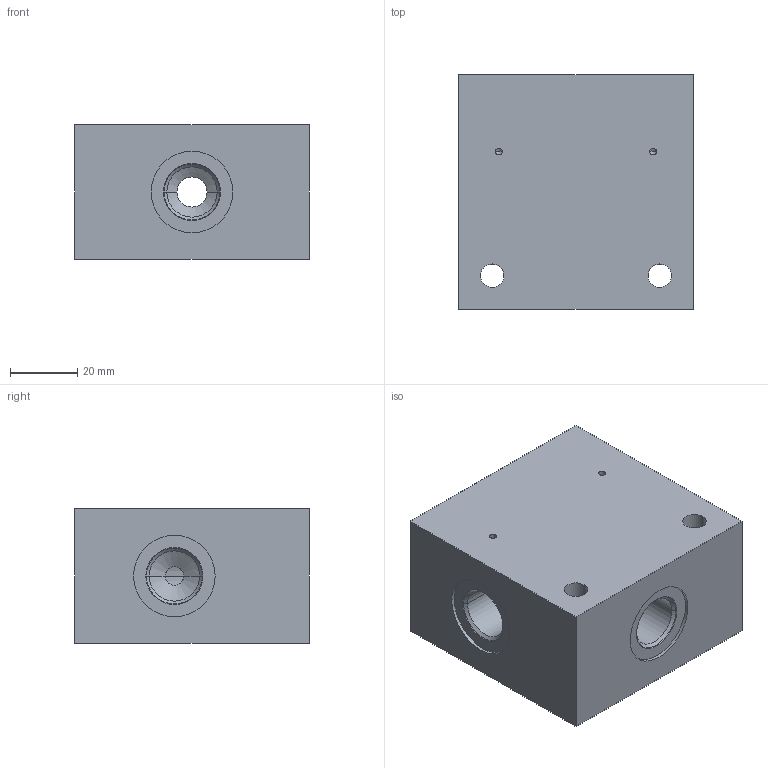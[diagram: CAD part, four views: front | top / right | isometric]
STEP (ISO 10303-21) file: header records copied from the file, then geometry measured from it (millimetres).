
FILE_DESCRIPTION((''),'2;1');
FILE_NAME('17031300','2023-10-11T',('l.soukupova'),(''),'PRO/ENGINEER BY PARAMETRIC TECHNOLOGY CORPORATION, 2015440','PRO/ENGINEER BY PARAMETRIC TECHNOLOGY CORPORATION, 2015440','');
FILE_SCHEMA(('AUTOMOTIVE_DESIGN { 1 0 10303 214 1 1 1 1 }'));
Length unit declared in the file: millimetre
Products named in the file (1): 17031300
Bounding box: 70 x 70 x 40 mm (x, y, z)
Volume: 171891.9 mm3; surface area: 30219.8 mm2
Topology: 1 solids, 5 shells, 82 faces, 285 edges, 239 vertices
Faces by surface type: cylinder 42, cone 26, plane 14
Entity records: 4115 total; most frequent: CARTESIAN_POINT 660, DIRECTION 553, ORIENTED_EDGE 352, PRESENTATION_STYLE_ASSIGNMENT 306, STYLED_ITEM 306, CURVE_STYLE 301, AXIS2_PLACEMENT_3D 189, EDGE_CURVE 184
